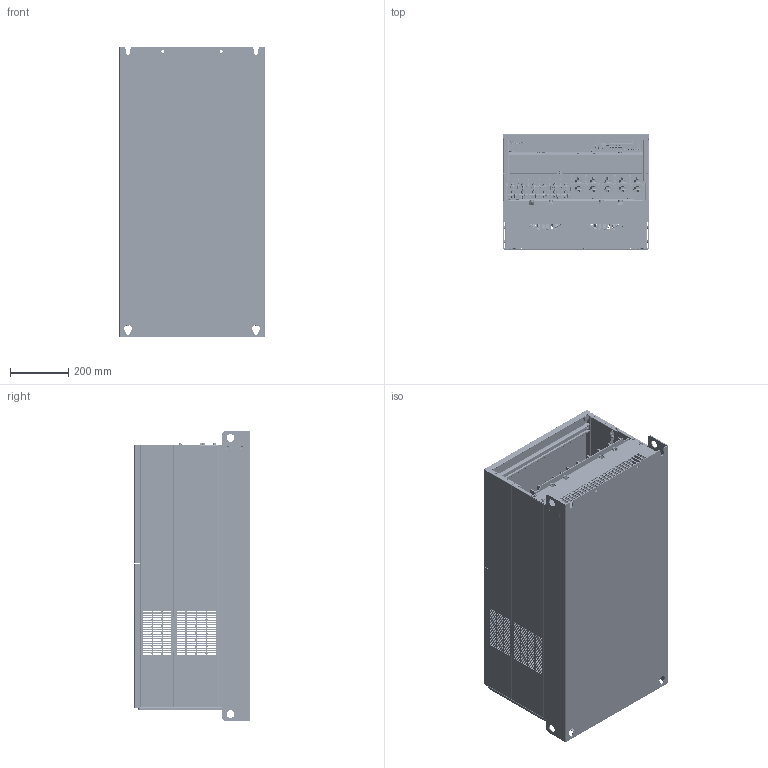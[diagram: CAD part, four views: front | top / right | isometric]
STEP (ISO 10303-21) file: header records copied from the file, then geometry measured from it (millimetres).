
FILE_DESCRIPTION((''),'2;1');
FILE_NAME('VFD-CP-G1-3D-PD01_ASM','2020-01-10T11:12:07',('COLA.LIU'),(''),'CREO PARAMETRIC BY PTC INC, 2018500','CREO PARAMETRIC BY PTC INC, 2018500','');
FILE_SCHEMA(('AUTOMOTIVE_DESIGN { 1 0 10303 214 1 1 1 1 }'));
Products named in the file (171): PRT0117; PRT0118; PRT0119; PRT0120; ASM0021_ASM_ASM; PRT0121; ASM0022_ASM_ASM; PRT0122; ASM0023_ASM_ASM; PRT0123; PRT0124; PRT0125; ASM0024_ASM_ASM; ASM0025_ASM; PRT0129; PRT0130; PRT0131; PRT0132; ASM0027_ASM_ASM; PRT0133; PRT0134; PRT0135; PRT0136; PRT0137; ASM0028_ASM_ASM; ASM0026_ASM_ASM; 31050828XX-15_M6_2; PRT0138; ASM0020_ASM_ASM; PRT0139; PRT0140; ASM0031_ASM_ASM; ASM0030_ASM_ASM; PRT0141; PRT0142; ASM0033_ASM_ASM; ASM0032_ASM_ASM; PRT0143; 31050869XX-M6_2_1; ASM0034_ASM_ASM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
Assembly tree (310 placements, depth 12):
  VFD-CP-G1-3D-PD01_ASM
    ASM0017_ASM_ASM
      ASM0018_ASM_ASM
        ASM0019_ASM_ASM
          PRT0117
          ASM0020_ASM_ASM
            ASM0021_ASM_ASM
              PRT0118
              PRT0119  x7
              PRT0120  x5
            ASM0022_ASM_ASM
              PRT0121
            ASM0023_ASM_ASM
              PRT0122
            PRT0123  x4
            PRT0124  x2
            ASM0024_ASM_ASM
              PRT0125
            ASM0025_ASM
            ASM0026_ASM_ASM
              PRT0129
              PRT0130  x7
              ASM0027_ASM_ASM  x3
                PRT0131
                PRT0132
              PRT0133  x7
              PRT0134  x7
              PRT0135  x2
              ASM0028_ASM_ASM  x2
                PRT0136
                PRT0137
            31050828XX-15_M6_2  x2
            PRT0138  x4
          ASM0029_ASM_ASM
            ASM0030_ASM_ASM
              ASM0031_ASM_ASM
                PRT0139
                PRT0140
            ASM0032_ASM_ASM
              ASM0033_ASM_ASM
                PRT0141
                PRT0142
            ASM0034_ASM_ASM
              PRT0143
              31050869XX-M6_2_1  x4
            3105162300-SCREW-M5_2  x2
          ASM0035_ASM_ASM
            ASM0036_ASM_ASM
              PRT0144
              PEM-S-M8-1__2  x4
              PRT0145  x6
            ASM0037_ASM_ASM
              ASM0038_ASM_ASM
                ASM0039_ASM_ASM
                  PRT0146
                  PRT0147
                PRT0148
                PRT0149
              ASM0040_ASM_ASM  x6
                PRT0150
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Bounding box: 500 x 397.6 x 1000 mm (x, y, z)
Volume: 8029974.4 mm3; surface area: 8035087.4 mm2
Topology: 311 solids, 338 shells, 26476 faces, 71818 edges, 47081 vertices
Faces by surface type: plane 15839, cylinder 7205, bspline 1452, cone 995, torus 873, sphere 88, extrusion 24
Entity records: 582363 total; most frequent: CARTESIAN_POINT 173337, ORIENTED_EDGE 77568, DIRECTION 75462, EDGE_CURVE 38784, VECTOR 26673, LINE 26652, VERTEX_POINT 25245, AXIS2_PLACEMENT_3D 24169
